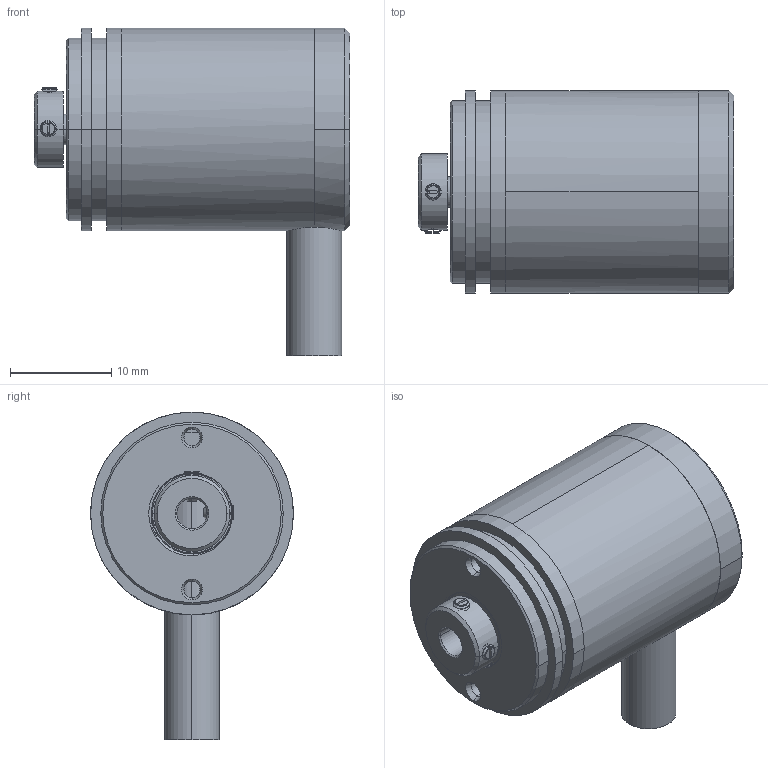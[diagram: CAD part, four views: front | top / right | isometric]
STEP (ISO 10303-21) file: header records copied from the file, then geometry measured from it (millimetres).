
FILE_DESCRIPTION (( 'STEP AP214' ), '1' );
FILE_NAME ('ﾋﾈﾐ-220ﾀ.STEP', '2017-05-23T08:52:24', ( '' ), ( '' ), 'SwSTEP 2.0', 'SolidWorks 2013', '' );
FILE_SCHEMA (( 'AUTOMOTIVE_DESIGN' ));
Length unit declared in the file: millimetre
Products named in the file (1): ﾋﾈﾐ-220ﾀ
Bounding box: 31.15 x 20 x 32.33 mm (x, y, z)
Surface area: 3960 mm2 (no closed solid volume)
Topology: 0 solids, 19 shells, 134 faces, 412 edges, 293 vertices
Faces by surface type: cylinder 63, cone 32, plane 30, torus 8, bspline 1
Entity records: 7689 total; most frequent: CARTESIAN_POINT 2804, DIRECTION 686, ORIENTED_EDGE 650, EDGE_CURVE 412, VERTEX_POINT 293, AXIS2_PLACEMENT_3D 285, EDGE_LOOP 153, CIRCLE 151
